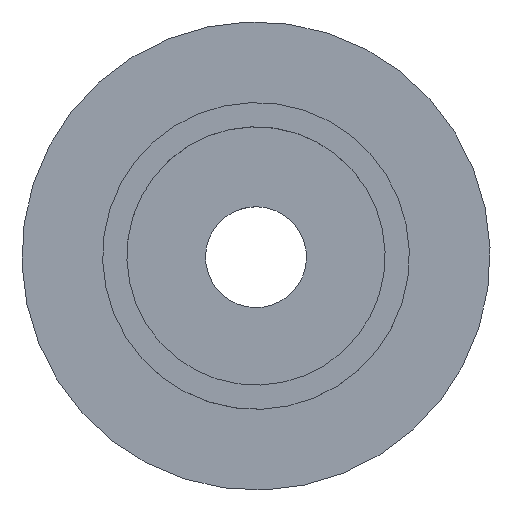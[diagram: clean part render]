
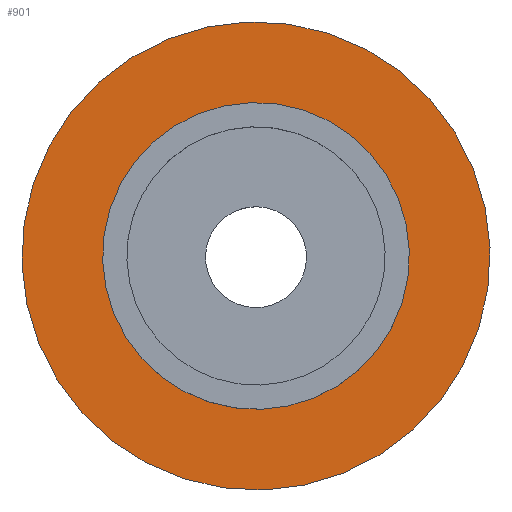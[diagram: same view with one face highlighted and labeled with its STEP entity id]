
A CAD part, top view. The second image highlights one B-rep face of the part: STEP entity #901.
In plain terms, the highlighted planar face has unit normal (0, 0, 1).
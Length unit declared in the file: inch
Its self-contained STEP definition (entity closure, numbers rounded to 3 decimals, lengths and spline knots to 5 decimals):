
#164=PLANE('',#965);
#188=FACE_BOUND('',#321,.T.);
#244=FACE_OUTER_BOUND('',#320,.T.);
#320=EDGE_LOOP('',(#764));
#321=EDGE_LOOP('',(#765));
#360=CIRCLE('',#964,1.8125);
#361=CIRCLE('',#966,1.1875);
#442=VERTEX_POINT('',#11016);
#443=VERTEX_POINT('',#11019);
#552=EDGE_CURVE('',#442,#442,#360,.T.);
#553=EDGE_CURVE('',#443,#443,#361,.T.);
#764=ORIENTED_EDGE('',*,*,#552,.T.);
#765=ORIENTED_EDGE('',*,*,#553,.F.);
#901=ADVANCED_FACE('',(#244,#188),#164,.T.);
#964=AXIS2_PLACEMENT_3D('',#11017,#1112,#1113);
#965=AXIS2_PLACEMENT_3D('',#11018,#1114,#1115);
#966=AXIS2_PLACEMENT_3D('',#11020,#1116,#1117);
#1112=DIRECTION('center_axis',(0.,0.,
1.));
#1113=DIRECTION('ref_axis',(-0.999,-0.035,0.));
#1114=DIRECTION('center_axis',(0.,0.,
1.));
#1115=DIRECTION('ref_axis',(-0.035,0.999,0.));
#1116=DIRECTION('center_axis',(0.,0.,
1.));
#1117=DIRECTION('ref_axis',(-0.999,-0.035,0.));
#11016=CARTESIAN_POINT('',(-1.81141,-0.06281,0.));
#11017=CARTESIAN_POINT('Origin',(0.,0.,
0.));
#11018=CARTESIAN_POINT('Origin',(-1.4991,-0.05198,
0.));
#11019=CARTESIAN_POINT('',(-1.18679,-0.04115,0.));
#11020=CARTESIAN_POINT('Origin',(0.,0.,
0.));
